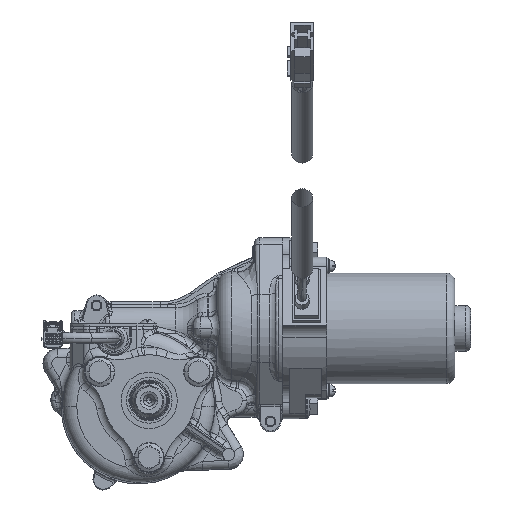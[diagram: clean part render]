
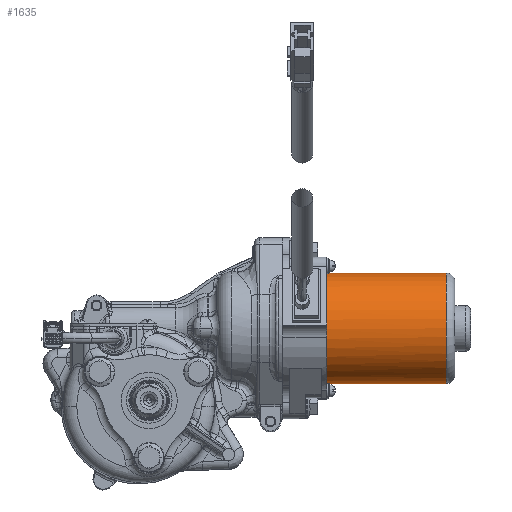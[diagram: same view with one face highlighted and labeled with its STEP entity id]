
A CAD part, left-side view. The second image highlights one B-rep face of the part: STEP entity #1635.
In plain terms, the highlighted cylindrical face has radius 31.5 mm (diameter 63 mm), a partial arc.
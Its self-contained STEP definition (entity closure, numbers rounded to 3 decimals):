
#1566=AXIS2_PLACEMENT_3D('Cylinder Axis2P3D',#1563,#1564,#1565) ;
#1613=AXIS2_PLACEMENT_3D('Circle Axis2P3D',#1611,#1612,$) ;
#1620=AXIS2_PLACEMENT_3D('Circle Axis2P3D',#1618,#1619,$) ;
#1625=AXIS2_PLACEMENT_3D('Circle Axis2P3D',#1623,#1624,$) ;
#1563=CARTESIAN_POINT('Axis2P3D Location',(111.816,-155.5,40.995)) ;
#1568=CARTESIAN_POINT('Line Origine',(111.315,-135.,72.491)) ;
#1572=CARTESIAN_POINT('Vertex',(111.315,-169.,72.491)) ;
#1574=CARTESIAN_POINT('Vertex',(111.315,-101.,72.491)) ;
#1588=CARTESIAN_POINT('Vertex',(112.317,-169.,9.499)) ;
#1591=CARTESIAN_POINT('Line Origine',(112.317,-135.,9.499)) ;
#1595=CARTESIAN_POINT('Vertex',(112.317,-101.,9.499)) ;
#1611=CARTESIAN_POINT('Axis2P3D Location',(111.816,-169.,40.995)) ;
#1615=CARTESIAN_POINT('Vertex',(80.316,-169.,40.995)) ;
#1618=CARTESIAN_POINT('Axis2P3D Location',(111.816,-169.,40.995)) ;
#1623=CARTESIAN_POINT('Axis2P3D Location',(111.816,-101.,40.995)) ;
#1564=DIRECTION('Axis2P3D Direction',(0.,-1.,0.)) ;
#1565=DIRECTION('Axis2P3D XDirection',(-0.016,0.,1.)) ;
#1569=DIRECTION('Vector Direction',(0.,-1.,0.)) ;
#1592=DIRECTION('Vector Direction',(0.,-1.,0.)) ;
#1612=DIRECTION('Axis2P3D Direction',(0.,-1.,0.)) ;
#1619=DIRECTION('Axis2P3D Direction',(0.,-1.,0.)) ;
#1624=DIRECTION('Axis2P3D Direction',(0.,-1.,0.)) ;
#1570=VECTOR('Line Direction',#1569,1.) ;
#1593=VECTOR('Line Direction',#1592,1.) ;
#1629=ORIENTED_EDGE('',*,*,#1597,.T.) ;
#1630=ORIENTED_EDGE('',*,*,#1617,.F.) ;
#1631=ORIENTED_EDGE('',*,*,#1622,.F.) ;
#1632=ORIENTED_EDGE('',*,*,#1576,.T.) ;
#1633=ORIENTED_EDGE('',*,*,#1627,.F.) ;
#1635=ADVANCED_FACE('\X2\8907657051FA529B\X0\.2 (\X2\5E73884C79FB52D5\X0\)',(#1634),#1567,.T.) ;
#1614=CIRCLE('generated circle',#1613,31.5) ;
#1621=CIRCLE('generated circle',#1620,31.5) ;
#1626=CIRCLE('generated circle',#1625,31.5) ;
#1567=CYLINDRICAL_SURFACE('generated cylinder',#1566,31.5) ;
#1576=EDGE_CURVE('',#1573,#1575,#1571,.F.) ;
#1597=EDGE_CURVE('',#1596,#1589,#1594,.T.) ;
#1617=EDGE_CURVE('',#1616,#1589,#1614,.T.) ;
#1622=EDGE_CURVE('',#1573,#1616,#1621,.T.) ;
#1627=EDGE_CURVE('',#1596,#1575,#1626,.F.) ;
#1628=EDGE_LOOP('',(#1629,#1630,#1631,#1632,#1633)) ;
#1634=FACE_OUTER_BOUND('',#1628,.T.) ;
#1571=LINE('Line',#1568,#1570) ;
#1594=LINE('Line',#1591,#1593) ;
#1573=VERTEX_POINT('',#1572) ;
#1575=VERTEX_POINT('',#1574) ;
#1589=VERTEX_POINT('',#1588) ;
#1596=VERTEX_POINT('',#1595) ;
#1616=VERTEX_POINT('',#1615) ;
